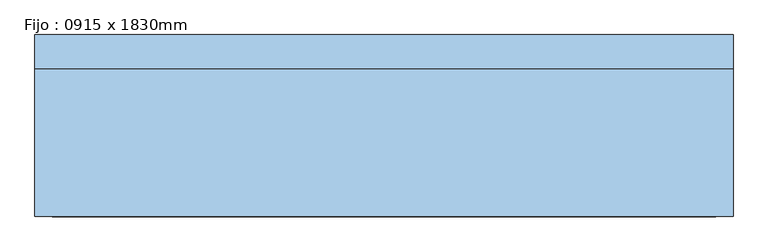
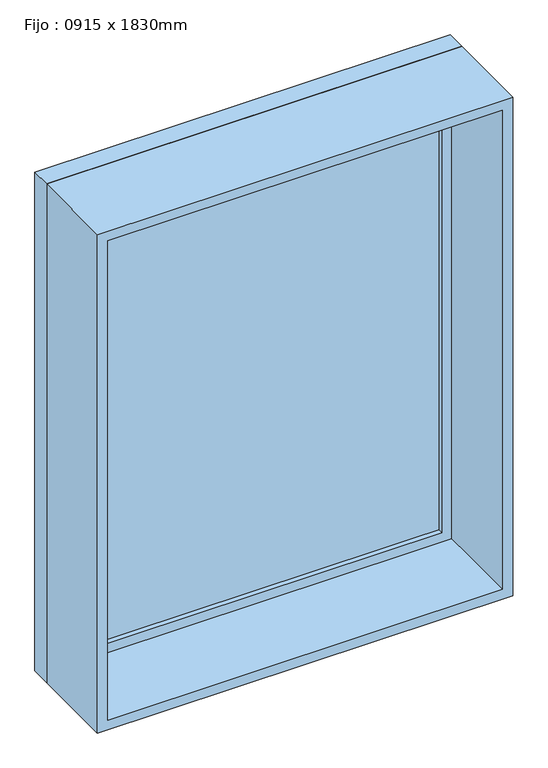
"""IFC4 building model written with IfcOpenShell, lengths in millimetres: window geometry, Fijo : 0915 x 1830mm."""

import ifcopenshell
import ifcopenshell.guid

model = None  # the IFC model being written
_history = None  # IfcOwnerHistory: only IFC2X3 demands one
_inside = {}  # id of a spatial element -> (the spatial element, [elements in it])
_under = {}  # id of a project, library or spatial element -> (it, [spatial elements below it])
_declared = {}  # id of a project -> (the project, [libraries it declares])
_typed = {}  # id of a type object -> (the type object, [elements of that type])
_made_of = {}  # id of a material, layer set ... -> (it, [elements and type objects made of it])


def new_model(schema):
    """Start an empty IFC model of exactly this schema.

    Asked for "IFC4X3", IfcOpenShell would pick the latest addendum, in which some entities
    have other attributes; the version numbers below select the first issue.
    IFC2X3 requires an IfcOwnerHistory on every rooted entity: one is made here for all.
    """
    global model, _history
    if schema == "IFC4X3":
        model = ifcopenshell.file(schema_version=(4, 3, 0, 0))
    else:
        model = ifcopenshell.file(schema=schema)
    _inside.clear()
    _under.clear()
    _declared.clear()
    _typed.clear()
    _made_of.clear()
    _history = None
    if model.schema == "IFC2X3":
        org = make("IfcOrganization", Name="unknown")
        user = make(
            "IfcPersonAndOrganization",
            ThePerson=make("IfcPerson", FamilyName="unknown"),
            TheOrganization=org,
        )
        app = make(
            "IfcApplication",
            ApplicationDeveloper=org,
            Version="unknown",
            ApplicationFullName="unknown",
            ApplicationIdentifier="unknown",
        )
        _history = make(
            "IfcOwnerHistory",
            OwningUser=user,
            OwningApplication=app,
            ChangeAction="ADDED",
            CreationDate=0,
        )
    return model


def make(cls, **values):
    """One entity of the class cls with the attributes given. An attribute that is None is left unset."""
    return model.create_entity(
        cls, **{name: value for name, value in values.items() if value is not None}
    )


def rooted(cls, **values):
    """An entity with a GlobalId (a new one), such as an element, a storey or a relation."""
    return make(cls, GlobalId=ifcopenshell.guid.new(), OwnerHistory=_history, **values)


def si_unit(unit_type, name, prefix=None):
    """IfcSIUnit, for example si_unit("LENGTHUNIT", "METRE", prefix="MILLI")."""
    return make("IfcSIUnit", UnitType=unit_type, Prefix=prefix, Name=name)


def assignment(units):
    """IfcUnitAssignment: the units of a project."""
    return None if units is None else make("IfcUnitAssignment", Units=units)


def point(xyz):
    """IfcCartesianPoint."""
    return None if xyz is None else make("IfcCartesianPoint", Coordinates=xyz)


def direction(xyz):
    """IfcDirection."""
    return None if xyz is None else make("IfcDirection", DirectionRatios=xyz)


def frame(location, z_axis=None, x_axis=None):
    """IfcAxis2Placement3D, a coordinate frame: its origin and axes. An axis left out is left unset."""
    return make(
        "IfcAxis2Placement3D",
        Location=point(location),
        Axis=direction(z_axis),
        RefDirection=direction(x_axis),
    )


def origin():
    """The frame at (0, 0, 0) with its axes left unset."""
    return frame((0.0, 0.0, 0.0))


def place(relative_to, where):
    """IfcLocalPlacement: puts the frame where relative to a parent placement (None: the world)."""
    return make(
        "IfcLocalPlacement", PlacementRelTo=relative_to, RelativePlacement=where
    )


def context(
    kind, dimensions, precision=None, world=None, true_north=None, identifier=None
):
    """IfcGeometricRepresentationContext, for example the 3D "Model" context."""
    return make(
        "IfcGeometricRepresentationContext",
        ContextIdentifier=identifier,
        ContextType=kind,
        CoordinateSpaceDimension=dimensions,
        Precision=precision,
        WorldCoordinateSystem=world,
        TrueNorth=true_north,
    )


def project(units=None, contexts=None):
    """IfcProject with its units and contexts."""
    return rooted(
        "IfcProject",
        Name="project",
        RepresentationContexts=contexts,
        UnitsInContext=assignment(units),
    )


def spatial(cls, under=None, at=None, **own):
    """A site, building, storey or space (cls), placed at a placement, below another one or the project."""
    s = rooted(cls, ObjectPlacement=at, **own)
    if under is not None:
        _under.setdefault(under.id(), (under, []))[1].append(s)
    return s


def polyline(points):
    """IfcPolyline through the points."""
    return make("IfcPolyline", Points=[point(p) for p in points])


def outline(outer, holes=None, kind="AREA"):
    """IfcArbitraryClosedProfileDef: a profile drawn as a closed curve; with holes, ...WithVoids."""
    if holes is None:
        return make("IfcArbitraryClosedProfileDef", ProfileType=kind, OuterCurve=outer)
    return make(
        "IfcArbitraryProfileDefWithVoids",
        ProfileType=kind,
        OuterCurve=outer,
        InnerCurves=holes,
    )


def extrude(swept, where, along, depth):
    """IfcExtrudedAreaSolid: the profile swept, set in the frame where, extruded along a direction by depth."""
    return make(
        "IfcExtrudedAreaSolid",
        SweptArea=swept,
        Position=where,
        ExtrudedDirection=direction(along),
        Depth=depth,
    )


def shape(context_of_items, identifier, shape_type, items):
    """IfcShapeRepresentation: the items that make up one representation, for example the "Body"."""
    return make(
        "IfcShapeRepresentation",
        ContextOfItems=context_of_items,
        RepresentationIdentifier=identifier,
        RepresentationType=shape_type,
        Items=items,
    )


def source(mapping_origin, context_of_items, identifier, shape_type, items):
    """IfcRepresentationMap: a shape defined once, which mapped items show again and again."""
    return make(
        "IfcRepresentationMap",
        MappingOrigin=mapping_origin,
        MappedRepresentation=shape(context_of_items, identifier, shape_type, items),
    )


def transform(
    local_origin,
    x_axis=None,
    y_axis=None,
    z_axis=None,
    scale=None,
    scale2=None,
    scale3=None,
    uniform=True,
):
    """IfcCartesianTransformationOperator3D, or its non-uniform kind. x_axis, y_axis, z_axis: its Axis1, 2, 3."""
    if uniform:
        return make(
            "IfcCartesianTransformationOperator3D",
            Axis1=direction(x_axis),
            Axis2=direction(y_axis),
            LocalOrigin=point(local_origin),
            Scale=scale,
            Axis3=direction(z_axis),
        )
    return make(
        "IfcCartesianTransformationOperator3DnonUniform",
        Axis1=direction(x_axis),
        Axis2=direction(y_axis),
        LocalOrigin=point(local_origin),
        Scale=scale,
        Axis3=direction(z_axis),
        Scale2=scale2,
        Scale3=scale3,
    )


def mapped(mapping_source, mapping_target):
    """IfcMappedItem: shows the shape of a source again, moved by a transform."""
    return make(
        "IfcMappedItem", MappingSource=mapping_source, MappingTarget=mapping_target
    )


def made_of(thing, what):
    """Note that an element or type object is made of a material, layer set ...; save() writes the relation."""
    if what is not None:
        _made_of.setdefault(what.id(), (what, []))[1].append(thing)
    return thing


def element(
    cls,
    number,
    at=None,
    inside=None,
    cuts=None,
    type_object=None,
    material=None,
    context=None,
    identifier="Body",
    shape_type=None,
    held_by="IfcProductDefinitionShape",
    body=None,
    shapes=None,
    **own,
):
    """One element of the class cls, such as IfcWall. Its Tag is "e" and its number.

    at: its placement. inside: the storey or other place that contains it. cuts: it is an
    opening in that element (IfcRelVoidsElement). A single representation is given by context,
    identifier, shape_type and body (its items); several are given by shapes. held_by: the class
    of the entity that holds the representations. save() writes the other relations.
    """
    e = rooted(cls, Tag="e%d" % number, ObjectPlacement=at, **own)
    if body is not None:
        shapes = [shape(context, identifier, shape_type, body)]
    if shapes is not None:
        e.Representation = make(held_by, Representations=shapes)
    if inside is not None:
        _inside.setdefault(inside.id(), (inside, []))[1].append(e)
    if cuts is not None:
        rooted(
            "IfcRelVoidsElement", RelatingBuildingElement=cuts, RelatedOpeningElement=e
        )
    if type_object is not None:
        _typed.setdefault(type_object.id(), (type_object, []))[1].append(e)
    return made_of(e, material)


def aggregate(whole, parts):
    """IfcRelAggregates: a whole, such as a stair, and the parts it consists of."""
    return rooted("IfcRelAggregates", RelatingObject=whole, RelatedObjects=parts)


def save(model, path):
    """Write the relations noted so far, then the file.

    IfcRelAggregates (storeys below a building ...), IfcRelContainedInSpatialStructure (elements
    in a storey), IfcRelDefinesByType, IfcRelAssociatesMaterial and IfcRelDeclares: one each for
    every whole, place, type object, material and project.
    """
    for whole, parts in _under.values():
        aggregate(whole, parts)
    for where, things in _inside.values():
        rooted(
            "IfcRelContainedInSpatialStructure",
            RelatedElements=things,
            RelatingStructure=where,
        )
    for kind, things in _typed.values():
        rooted("IfcRelDefinesByType", RelatedObjects=things, RelatingType=kind)
    for what, things in _made_of.values():
        rooted("IfcRelAssociatesMaterial", RelatedObjects=things, RelatingMaterial=what)
    for by, libraries in _declared.values():
        rooted("IfcRelDeclares", RelatingContext=by, RelatedDefinitions=libraries)
    model.write(path)


def fijo_0915_x_1830mm_9897909d(model_context):
    return source(origin(), model_context, "Body", "SweptSolid", [
        extrude(outline(polyline([(-587.0, 147.5), (587.0, 147.5), (587.0, 135.5), (-587.0, 135.5), (-587.0, 147.5)])), frame((0.0, 0.0, 368.0), z_axis=(0.0, 0.0, 1.0), x_axis=(1.0, 0.0, 0.0)), (0.0, 0.0, 1.0), 1524.0),
        extrude(outline(polyline([(1936.0, -631.0), (324.0, -631.0), (324.0, 631.0), (1936.0, 631.0), (1936.0, -631.0)]), holes=[polyline([(1892.0, -587.0), (1892.0, 587.0), (368.0, 587.0), (368.0, -587.0), (1892.0, -587.0)])]), frame((0.0, 119.5, 0.0), z_axis=(0.0, 1.0, 0.0), x_axis=(0.0, 0.0, 1.0)), (0.0, 0.0, 1.0), 44.0),
        extrude(outline(polyline([(1955.0, -650.0), (305.0, -650.0), (305.0, 650.0), (1955.0, 650.0), (1955.0, -650.0)]), holes=[polyline([(1936.0, -631.0), (1936.0, 631.0), (324.0, 631.0), (324.0, -631.0), (1936.0, -631.0)])]), frame((0.0, 119.5, 0.0), z_axis=(0.0, 1.0, 0.0), x_axis=(0.0, 0.0, 1.0)), (0.0, 0.0, 1.0), 63.0),
        extrude(outline(polyline([(1955.0, -650.0), (305.0, -650.0), (305.0, 650.0), (1955.0, 650.0), (1955.0, -650.0)]), holes=[polyline([(1923.0, -618.0), (1923.0, 618.0), (337.0, 618.0), (337.0, -618.0), (1923.0, -618.0)])]), frame((0.0, -156.5, 0.0), z_axis=(0.0, 1.0, 0.0), x_axis=(0.0, 0.0, 1.0)), (0.0, 0.0, 1.0), 276.0),
    ])


if __name__ == "__main__":
    model = new_model("IFC4")
    model_context = context("Model", 3, world=origin())
    ifc_project = project(units=[si_unit("LENGTHUNIT", "METRE", prefix="MILLI")], contexts=[model_context])
    site = spatial("IfcSite", under=ifc_project)
    building = spatial("IfcBuilding", under=site)
    placement = place(None, origin())
    fijo_0915_x_1830mm_shape = fijo_0915_x_1830mm_9897909d(model_context)
    element("IfcWindow", 1, ObjectType="Fijo : 0915 x 1830mm", at=placement, inside=building, context=model_context, shape_type="MappedRepresentation", body=[
        mapped(fijo_0915_x_1830mm_shape, transform((0.0, 0.0, 0.0), x_axis=(1.0, 0.0, 0.0), y_axis=(0.0, 1.0, 0.0), z_axis=(0.0, 0.0, 1.0))),
    ])
    save(model, "model.ifc")
